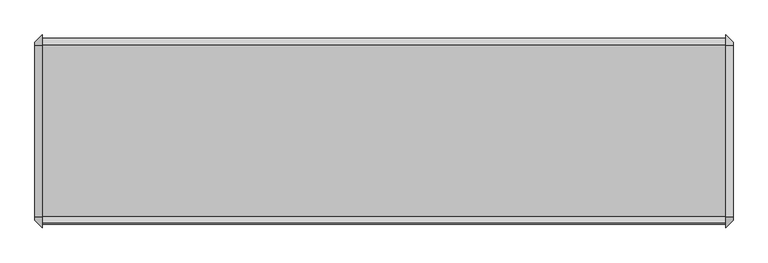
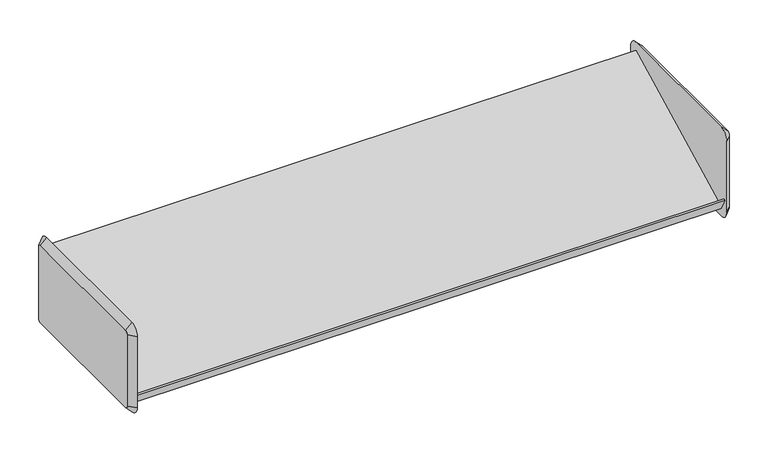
"""IFC4 building model written with IfcOpenShell, lengths in millimetres: furniture geometry."""

from ifc_helpers import new_model, si_unit, frame, origin, place, context, project, spatial, polyline, circle_curve, outline, extrude, source, transform, mapped, element, save
from ifc_brep_helpers import plane_surface, revolved_surface, advanced_brep


def furniture_9f56e1c8(model_context):
    return source(origin(), model_context, "Body", "SolidModel", [
        advanced_brep(
        [(485.6579955, 161.925, 1206.5), (485.6579955, -136.525, 1206.5), (485.6579955, -142.875, 1200.15), (485.6579955, -142.875, 1047.75), (485.6579955, -136.525, 1041.4), (485.6579955, 161.925, 1041.4), (485.6579955, 168.275, 1047.75), (485.6579955, 168.275, 1200.15), (472.9579955, 161.925, 1219.2), (472.9579955, 180.975, 1200.15), (472.9579955, 180.975, 1047.75), (472.9579955, 161.925, 1028.7), (472.9579955, -136.525, 1028.7), (472.9579955, -155.575, 1047.75), (472.9579955, -155.575, 1200.15), (472.9579955, -136.525, 1219.2)],
        [
            (0, 1),
            (1, 2, circle_curve(frame((485.6579955, -136.525, 1200.15), z_axis=(1.0, 2.0730084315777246e-12, -2.174260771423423e-12), x_axis=(2.1742640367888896e-12, 0.0, 1.0)), 6.35)),
            (2, 3),
            (3, 4, circle_curve(frame((485.6579955, -136.525, 1047.75), z_axis=(1.0, 2.0596857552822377e-12, 2.046363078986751e-12), x_axis=(2.059647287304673e-12, -1.0, 0.0)), 6.35)),
            (4, 5),
            (5, 6, circle_curve(frame((485.6579955, 161.925, 1047.75), z_axis=(1.0, 2.0889956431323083e-12, -2.0996537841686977e-12), x_axis=(-2.0996846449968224e-12, 0.0, -1.0)), 6.35)),
            (6, 7),
            (7, 0, circle_curve(frame((485.6579955, 161.925, 1200.15), z_axis=(1.0, 2.0783375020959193e-12, 1.971756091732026e-12), x_axis=(-2.0783313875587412e-12, 1.0, 0.0)), 6.35)),
            (8, 9, circle_curve(frame((472.9579955, 161.925, 1200.15), z_axis=(-1.0, -2.0783375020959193e-12, -1.971756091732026e-12), x_axis=(-2.0783313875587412e-12, 1.0, 0.0)), 19.05)),
            (9, 10),
            (10, 11, circle_curve(frame((472.9579955, 161.925, 1047.75), z_axis=(-1.0, -2.0889956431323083e-12, 2.0996537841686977e-12), x_axis=(-2.0996846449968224e-12, 0.0, -1.0)), 19.05)),
            (11, 12),
            (12, 13, circle_curve(frame((472.9579955, -136.525, 1047.75), z_axis=(-1.0, -2.0596857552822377e-12, -2.046363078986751e-12), x_axis=(2.059647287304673e-12, -1.0, 0.0)), 19.05)),
            (13, 14),
            (14, 15, circle_curve(frame((472.9579955, -136.525, 1200.15), z_axis=(-1.0, -2.0730084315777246e-12, 2.174260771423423e-12), x_axis=(2.1742640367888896e-12, 0.0, 1.0)), 19.05)),
            (15, 8),
            (15, 1),
            (0, 8),
            (14, 2),
            (13, 3),
            (12, 4),
            (11, 5),
            (10, 6),
            (9, 7),
        ],
        [
            plane_surface(frame((485.6579955, 12.7, 1123.95), z_axis=(1.0, 0.0, 0.0), x_axis=(0.0, -1.0, 0.0))),
            plane_surface(frame((472.9579955, 12.7, 1123.95), z_axis=(-1.0, 0.0, 0.0), x_axis=(0.0, -1.0, 0.0))),
            plane_surface(frame((472.9579955, 12.7, 1219.2), z_axis=(0.7071067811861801, 0.0, 0.707106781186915), x_axis=(0.0, -1.0, 0.0))),
            revolved_surface(polyline([(485.65799550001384, -136.525, 1206.4999999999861), (472.9579955, -136.525, 1219.2)]), (492.0079955, -136.525, 1200.15), (-1.0, -2.0730084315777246e-12, 2.174260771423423e-12)),
            plane_surface(frame((472.9579955, -155.575, 1123.95), z_axis=(0.7071067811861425, -0.7071067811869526, 0.0), x_axis=(0.0, 0.0, -1.0))),
            revolved_surface(polyline([(485.6579955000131, -142.87499999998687, 1047.75), (472.9579955, -155.575, 1047.75)]), (492.0079955, -136.525, 1047.75), (-1.0, -2.0596857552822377e-12, -2.046363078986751e-12)),
            plane_surface(frame((472.9579955, 12.7, 1028.7), z_axis=(0.7071067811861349, 0.0, -0.7071067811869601), x_axis=(0.0, 1.0, 0.0))),
            revolved_surface(polyline([(485.6579955, 161.925, 1041.4), (472.95799549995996, 161.925, 1028.69999999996)]), (492.0079955, 161.925, 1047.75), (-1.0, -2.0889956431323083e-12, 2.0996537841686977e-12)),
            plane_surface(frame((472.9579955, 180.975, 1123.95), z_axis=(0.7071067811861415, 0.7071067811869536, 0.0), x_axis=(0.0, 0.0, 1.0))),
            revolved_surface(polyline([(485.6579955, 168.27499999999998, 1200.15), (472.95799549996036, 180.97500000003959, 1200.15)]), (492.0079955, 161.925, 1200.15), (-1.0, -2.0783375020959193e-12, -1.971756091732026e-12)),
        ],
        [
            (0, [[1, 2, 3, 4, 5, 6, 7, 8]]),
            (1, [[9, 10, 11, 12, 13, 14, 15, 16]]),
            (2, [[-16, 17, -1, 18]]),
            (3, [[-15, 19, -2, -17]]),
            (4, [[-14, 20, -3, -19]]),
            (5, [[-13, 21, -4, -20]]),
            (6, [[-12, 22, -5, -21]]),
            (7, [[-11, 23, -6, -22]]),
            (8, [[-10, 24, -7, -23]]),
            (9, [[-9, -18, -8, -24]]),
        ],
    ),
        advanced_brep(
        [(-733.5420045, -136.525, 1206.5), (-733.5420045, 161.925, 1206.5), (-733.5420045, 168.275, 1200.15), (-733.5420045, 168.275, 1047.75), (-733.5420045, 161.925, 1041.4), (-733.5420045, -136.525, 1041.4), (-733.5420045, -142.875, 1047.75), (-733.5420045, -142.875, 1200.15), (-720.8420045, -136.525, 1219.2), (-720.8420045, -155.575, 1200.15), (-720.8420045, -155.575, 1047.75), (-720.8420045, -136.525, 1028.7), (-720.8420045, 161.925, 1028.7), (-720.8420045, 180.975, 1047.75), (-720.8420045, 180.975, 1200.15), (-720.8420045, 161.925, 1219.2)],
        [
            (0, 1),
            (1, 2, circle_curve(frame((-733.5420045, 161.925, 1200.15), z_axis=(-1.0, 0.0, 0.0), x_axis=(0.0, 0.0, 1.0)), 6.35)),
            (2, 3),
            (3, 4, circle_curve(frame((-733.5420045, 161.925, 1047.75), z_axis=(-1.0, 0.0, 0.0), x_axis=(0.0, 1.0, 0.0)), 6.35)),
            (4, 5),
            (5, 6, circle_curve(frame((-733.5420045, -136.525, 1047.75), z_axis=(-1.0, 0.0, 0.0), x_axis=(0.0, 0.0, -1.0)), 6.35)),
            (6, 7),
            (7, 0, circle_curve(frame((-733.5420045, -136.525, 1200.15), z_axis=(-1.0, 0.0, 0.0), x_axis=(0.0, -1.0, 0.0)), 6.35)),
            (8, 9, circle_curve(frame((-720.8420045, -136.525, 1200.15), z_axis=(1.0, 0.0, 0.0), x_axis=(0.0, -1.0, 0.0)), 19.05)),
            (9, 10),
            (10, 11, circle_curve(frame((-720.8420045, -136.525, 1047.75), z_axis=(1.0, 0.0, 0.0), x_axis=(0.0, 0.0, -1.0)), 19.05)),
            (11, 12),
            (12, 13, circle_curve(frame((-720.8420045, 161.925, 1047.75), z_axis=(1.0, 0.0, 0.0), x_axis=(0.0, 1.0, 0.0)), 19.05)),
            (13, 14),
            (14, 15, circle_curve(frame((-720.8420045, 161.925, 1200.15), z_axis=(1.0, 0.0, 0.0), x_axis=(0.0, 0.0, 1.0)), 19.05)),
            (15, 8),
            (15, 1),
            (0, 8),
            (14, 2),
            (13, 3),
            (12, 4),
            (11, 5),
            (10, 6),
            (9, 7),
        ],
        [
            plane_surface(frame((-733.5420045, 12.7, 1123.95), z_axis=(-1.0, 0.0, 0.0), x_axis=(0.0, -1.0, 0.0))),
            plane_surface(frame((-720.8420045, 12.7, 1123.95), z_axis=(1.0, 0.0, 0.0), x_axis=(0.0, -1.0, 0.0))),
            plane_surface(frame((-720.8420045, 12.7, 1219.2), z_axis=(-0.7071067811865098, 0.0, 0.7071067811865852), x_axis=(0.0, 1.0, 0.0))),
            revolved_surface(polyline([(-733.5420045, 161.925, 1206.5), (-720.8420045, 161.925, 1219.2)]), (-739.8920045, 161.925, 1200.15), (1.0, 0.0, 0.0)),
            plane_surface(frame((-720.8420045, 180.975, 1123.95), z_axis=(-0.7071067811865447, 0.7071067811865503, 0.0), x_axis=(0.0, 0.0, -1.0))),
            revolved_surface(polyline([(-733.5420045, 168.27500000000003, 1047.75), (-720.8420045, 180.975, 1047.75)]), (-739.8920045, 161.925, 1047.75), (1.0, 0.0, 0.0)),
            plane_surface(frame((-720.8420045, 12.7, 1028.7), z_axis=(-0.7071067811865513, 0.0, -0.7071067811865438), x_axis=(0.0, -1.0, 0.0))),
            revolved_surface(polyline([(-733.5420045, -136.525, 1041.4), (-720.8420045, -136.525, 1028.7)]), (-739.8920045, -136.525, 1047.75), (1.0, 0.0, 0.0)),
            plane_surface(frame((-720.8420045, -155.575, 1123.95), z_axis=(-0.7071067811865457, -0.7071067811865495, 0.0), x_axis=(0.0, 0.0, 1.0))),
            revolved_surface(polyline([(-733.5420045, -142.87500000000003, 1200.15), (-720.8420045, -155.575, 1200.15)]), (-739.8920045, -136.525, 1200.15), (1.0, 0.0, 0.0)),
        ],
        [
            (0, [[1, 2, 3, 4, 5, 6, 7, 8]]),
            (1, [[9, 10, 11, 12, 13, 14, 15, 16]]),
            (2, [[-16, 17, -1, 18]]),
            (3, [[-15, 19, -2, -17]]),
            (4, [[-14, 20, -3, -19]]),
            (5, [[-13, 21, -4, -20]]),
            (6, [[-12, 22, -5, -21]]),
            (7, [[-11, 23, -6, -22]]),
            (8, [[-10, 24, -7, -23]]),
            (9, [[-9, -18, -8, -24]]),
        ],
    ),
        extrude(outline(polyline([(-137.2094993, 1045.6179666), (-149.845093, 1070.0467844), (-147.0173828, 1071.4907216), (-135.8404765, 1049.8820334), (162.5893131, 1202.2717194), (175.2453599, 1178.6470972), (172.4171401, 1177.2028998), (161.2606869, 1198.0282806), (-137.2094993, 1045.6179666)])), frame((-720.8420045, 0.0, 0.0), z_axis=(1.0, 0.0, 0.0), x_axis=(0.0, 1.0, 0.0)), (0.0, 0.0, 1.0), 1193.8),
    ])


if __name__ == "__main__":
    model = new_model("IFC4")
    model_context = context("Model", 3, world=origin())
    ifc_project = project(units=[si_unit("LENGTHUNIT", "METRE", prefix="MILLI")], contexts=[model_context])
    site = spatial("IfcSite", under=ifc_project)
    building = spatial("IfcBuilding", under=site)
    placement = place(None, origin())
    furniture_shape = furniture_9f56e1c8(model_context)
    element("IfcFurniture", 1, ObjectType="HermanMiller_ActionOffice_A3220_B-StyleStorageDisplay : Display 13\"D x 48\"W", at=placement, inside=building, context=model_context, shape_type="MappedRepresentation", body=[
        mapped(furniture_shape, transform((0.0, 0.0, 0.0), x_axis=(1.0, 0.0, 0.0), y_axis=(0.0, 1.0, 0.0), z_axis=(0.0, 0.0, 1.0))),
    ])
    save(model, "model.ifc")
